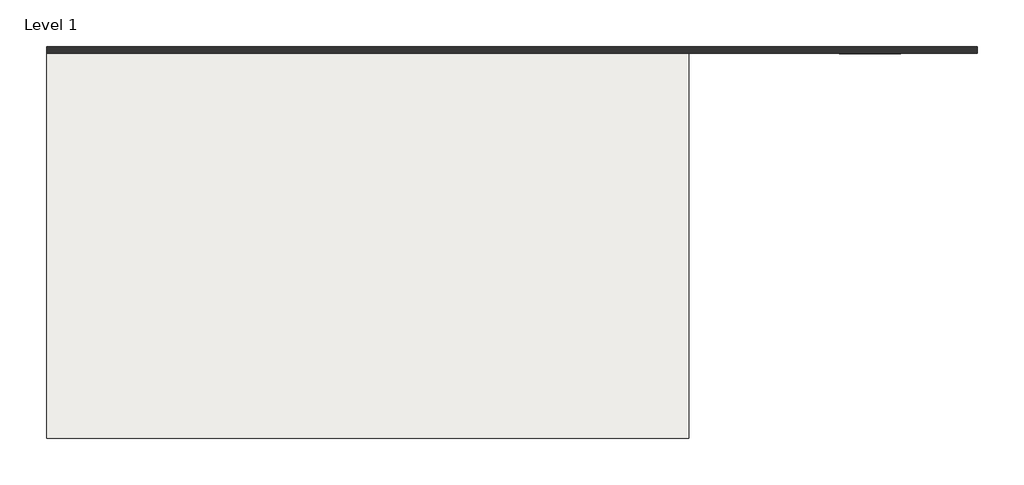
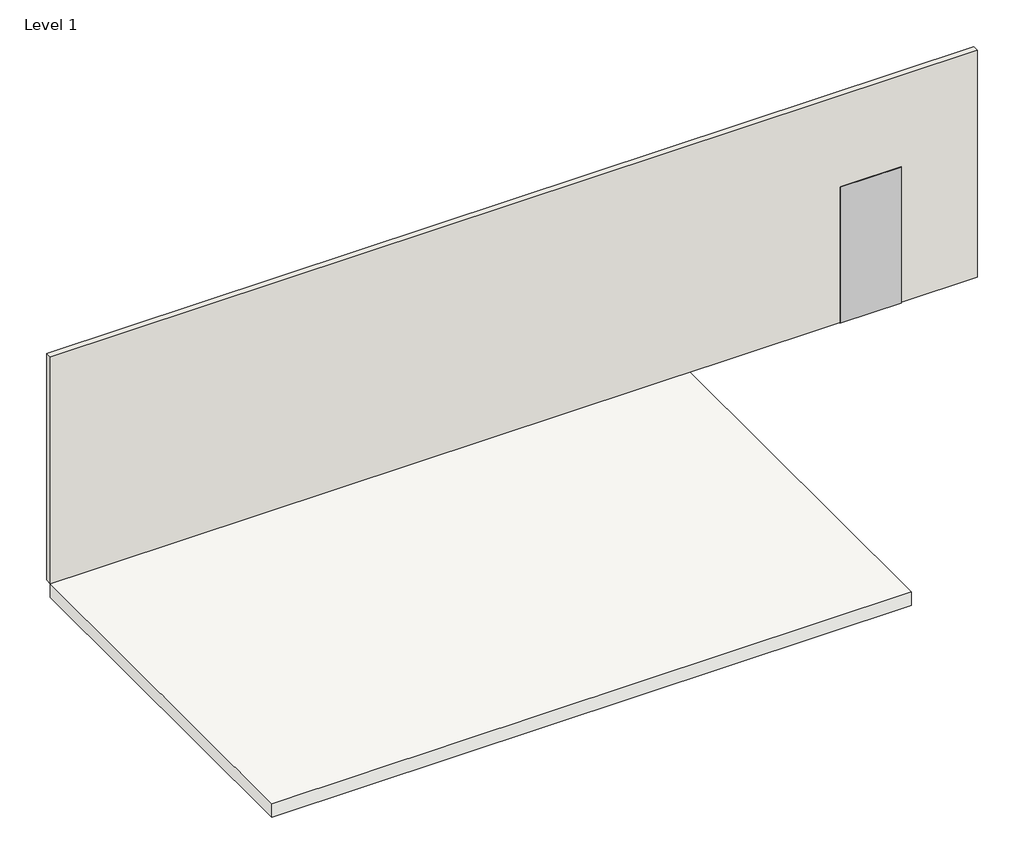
# One storey: 1 proxy, 1 slab, 1 wall.
"""IFC4 building model written with IfcOpenShell, lengths in millimetres."""

from ifc_helpers import new_model, si_unit, frame, origin, origin_with_axes, place, context, project, spatial, polyline, outline, extrude, transform, mapped, element, save
from components import specialty_equipment_f73d159b

model = new_model("IFC4")

# Units and contexts
model_context = context("Model", 3, world=origin())
ifc_project = project(units=[si_unit("LENGTHUNIT", "METRE", prefix="MILLI")], contexts=[model_context])

# Site, building, storey
site = spatial("IfcSite", under=ifc_project)
building = spatial("IfcBuilding", under=site)
storey = spatial("IfcBuildingStorey", under=building, Name="Level 1", Elevation=0.0)

# Proxy
placement = place(None, origin())
specialty_equipment_shape = specialty_equipment_f73d159b(model_context)
element("IfcBuildingElementProxy", 1, Name="Wall-Panel-Kirei-Wavy_Panels : Wavy 2.0", ObjectType="Wall-Panel-Kirei-Wavy_Panels : Wavy 2.0", at=placement, inside=storey, context=model_context, shape_type="MappedRepresentation", body=[
    mapped(specialty_equipment_shape, transform((4970.5128985, 6040.5236992, 1365.25), x_axis=(1.0, 0.0, 0.0), y_axis=(0.0, 0.0, 1.0), z_axis=(0.0, -1.0, 0.0))),
])

# Slab
element("IfcSlab", 2, ObjectType="Wood Joist 10\" - Wood Finish", at=placement, inside=storey, context=model_context, shape_type="SweptSolid", body=[
    extrude(outline(polyline([(-10693.6472578, -1274.6763008), (-10693.6472578, 6040.5236992), (1498.3527422, 6040.5236992), (1498.3527422, -1274.6763008), (-10693.6472578, -1274.6763008)])), frame((0.0, 0.0, -273.05), z_axis=(0.0, 0.0, 1.0), x_axis=(1.0, 0.0, 0.0)), (0.0, 0.0, 1.0), 273.05),
])

# Wall
element("IfcWall", 3, ObjectType="Interior - 5\" Partition (2-hr)", at=placement, inside=storey, context=model_context, shape_type="SweptSolid", body=[
    extrude(outline(polyline([(6984.7527422, 6040.5236992), (-10693.6472578, 6040.5236992), (-10693.6472578, 6167.5236992), (6984.7527422, 6167.5236992), (6984.7527422, 6040.5236992)])), origin_with_axes(), (0.0, 0.0, 1.0), 4572.0),
])

save(model, "model.ifc")
